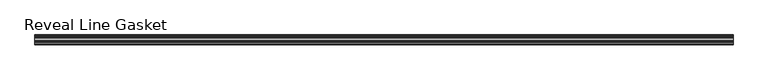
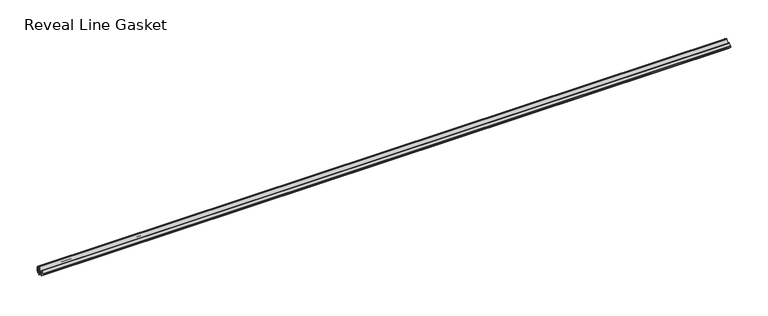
"""IFC4 building model written with IfcOpenShell, lengths in millimetres: proxy geometry, Accessories-Teknion-FHGR-AI_Healthcare-Reveal_Line_Gasket(Horizontal)-R2022 : Reveal Line Gasket."""

from ifc_helpers import new_model, si_unit, point, frame, frame_2d, origin, place, context, project, spatial, polyline, circle_curve, trimmed, segment, composite_curve, outline, extrude, source, transform, mapped, element, save


def reveal_line_gasket_48aaa5db(model_context):
    return source(origin(), model_context, "Body", "SweptSolid", [
        extrude(outline(composite_curve([segment(polyline([(7.6326998, 1603.2), (7.6326998, 1597.2), (7.4091917, 1596.2445073), (6.8813059, 1595.3115316)]), True, "CONTINUOUS"), segment(trimmed(circle_curve(frame_2d((6.5243141, 1595.5135207)), 0.4101739), [point((6.8813059, 1595.3115316))], [point((6.1246704, 1595.6058653))], False, "CARTESIAN"), True, "CONTINUOUS"), segment(polyline([(6.1246704, 1595.6058653), (6.3626997, 1597.3020914), (6.3626997, 1599.3345473)]), True, "CONTINUOUS"), segment(trimmed(circle_curve(frame_2d((5.6959605, 1598.9180742)), 0.786124), [point((6.3626997, 1599.3345473))], [point((5.0926996, 1599.422125))], True, "CARTESIAN"), True, "CONTINUOUS"), segment(polyline([(5.0926996, 1599.422125), (0.7492996, 1599.422125), (3.7293824, 1594.2604705)]), True, "CONTINUOUS"), segment(trimmed(circle_curve(frame_2d((3.3132479, 1594.1950239)), 0.4212495), [point((3.7293824, 1594.2604705))], [point((3.0485022, 1593.8673642))], False, "CARTESIAN"), True, "CONTINUOUS"), segment(polyline([(3.0485022, 1593.8673642), (-0.5742594, 1599.422125), (-4.8262978, 1599.422125), (-3.1660374, 1596.5464703)]), True, "CONTINUOUS"), segment(trimmed(circle_curve(frame_2d((-3.5978728, 1596.4881145)), 0.4357605), [point((-3.1660374, 1596.5464703))], [point((-3.864328, 1596.1433119))], False, "CARTESIAN"), True, "CONTINUOUS"), segment(polyline([(-3.864328, 1596.1433119), (-6.1944059, 1599.422125), (-7.6326998, 1599.422125), (-7.6326998, 1600.977875), (-6.1944059, 1600.977875), (-3.864328, 1604.2566881)]), True, "CONTINUOUS"), segment(trimmed(circle_curve(frame_2d((-3.5978728, 1603.9118855)), 0.4357605), [point((-3.864328, 1604.2566881))], [point((-3.1660374, 1603.8535297))], False, "CARTESIAN"), True, "CONTINUOUS"), segment(polyline([(-3.1660374, 1603.8535297), (-4.8262978, 1600.977875), (-0.5742594, 1600.977875), (3.0485022, 1606.5326358)]), True, "CONTINUOUS"), segment(trimmed(circle_curve(frame_2d((3.3132479, 1606.2049761)), 0.4212495), [point((3.0485022, 1606.5326358))], [point((3.7293824, 1606.1395295))], False, "CARTESIAN"), True, "CONTINUOUS"), segment(polyline([(3.7293824, 1606.1395295), (0.7492996, 1600.977875), (5.0926996, 1600.977875)]), True, "CONTINUOUS"), segment(trimmed(circle_curve(frame_2d((5.6959605, 1601.4819258)), 0.786124), [point((5.0926996, 1600.977875))], [point((6.3626997, 1601.0654527))], True, "CARTESIAN"), True, "CONTINUOUS"), segment(polyline([(6.3626997, 1601.0654527), (6.3626997, 1603.0979086), (6.1246704, 1604.7941347)]), True, "CONTINUOUS"), segment(trimmed(circle_curve(frame_2d((6.5243141, 1604.8864793)), 0.4101739), [point((6.1246704, 1604.7941347))], [point((6.8813059, 1605.0884684))], False, "CARTESIAN"), True, "CONTINUOUS"), segment(polyline([(6.8813059, 1605.0884684), (7.4091917, 1604.1554927), (7.6326998, 1603.2)]), True, "CONTINUOUS")], self_intersect=False)), frame((-531.5204, 0.0, 0.0), z_axis=(1.0, 0.0, 0.0), x_axis=(0.0, 1.0, 0.0)), (0.0, 0.0, 1.0), 1063.0408),
    ])


if __name__ == "__main__":
    model = new_model("IFC4")
    model_context = context("Model", 3, world=origin())
    ifc_project = project(units=[si_unit("LENGTHUNIT", "METRE", prefix="MILLI")], contexts=[model_context])
    site = spatial("IfcSite", under=ifc_project)
    building = spatial("IfcBuilding", under=site)
    placement = place(None, origin())
    reveal_line_gasket_shape = reveal_line_gasket_48aaa5db(model_context)
    element("IfcBuildingElementProxy", 1, Name="Accessories-Teknion-FHGR-AI_Healthcare-Reveal_Line_Gasket(Horizontal)-R2022 : Reveal Line Gasket", ObjectType="Accessories-Teknion-FHGR-AI_Healthcare-Reveal_Line_Gasket(Horizontal)-R2022 : Reveal Line Gasket", at=placement, inside=building, context=model_context, shape_type="MappedRepresentation", body=[
        mapped(reveal_line_gasket_shape, transform((0.0, 0.0, 0.0), x_axis=(1.0, 0.0, 0.0), y_axis=(0.0, 1.0, 0.0), z_axis=(0.0, 0.0, 1.0))),
    ])
    save(model, "model.ifc")
